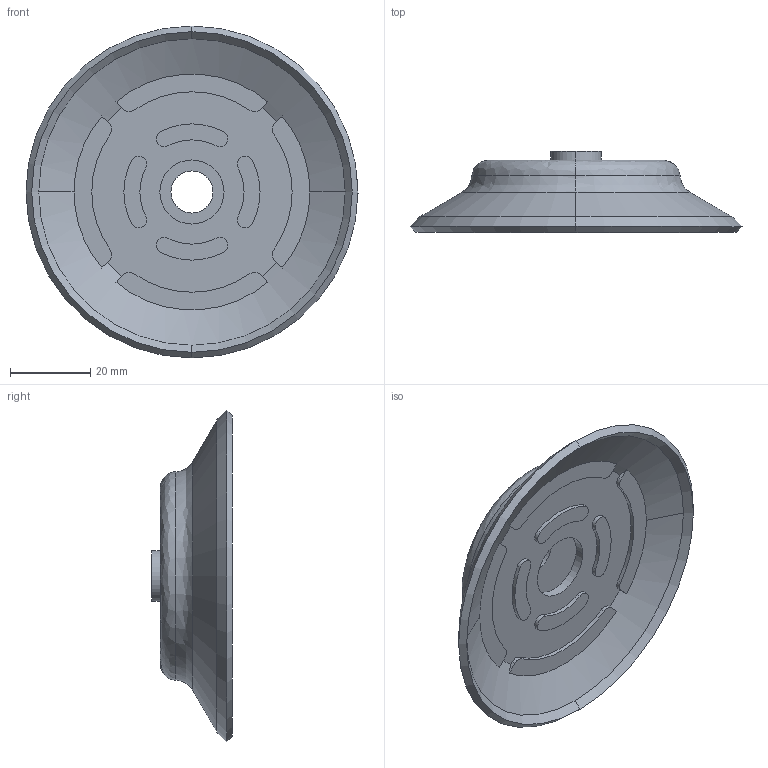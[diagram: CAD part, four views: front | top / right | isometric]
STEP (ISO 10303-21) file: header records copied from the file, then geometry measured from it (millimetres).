
FILE_DESCRIPTION (( 'STEP AP214' ), '1' );
FILE_NAME ('RFG-80.STEP', '2023-03-07T05:50:27', ( 'Windows User' ), ( 'P R C' ), 'SwSTEP 2.0', 'SolidWorks 2019', '' );
FILE_SCHEMA (( 'AUTOMOTIVE_DESIGN' ));
Length unit declared in the file: millimetre
Products named in the file (1): RFG-80
Bounding box: 82.85 x 20.2 x 82.83 mm (x, y, z)
Volume: 23077.7 mm3; surface area: 16841.8 mm2
Topology: 3 solids, 3 shells, 88 faces, 215 edges, 140 vertices
Faces by surface type: cylinder 47, plane 23, cone 12, bspline 6
Entity records: 2881 total; most frequent: CARTESIAN_POINT 708, DIRECTION 475, ORIENTED_EDGE 430, EDGE_CURVE 215, AXIS2_PLACEMENT_3D 199, VERTEX_POINT 140, CIRCLE 116, EDGE_LOOP 97
